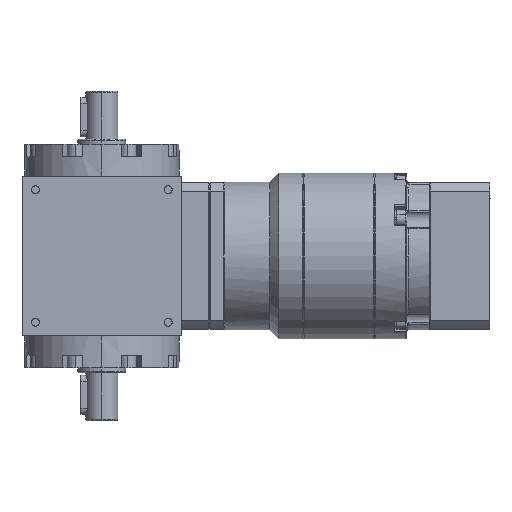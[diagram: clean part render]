
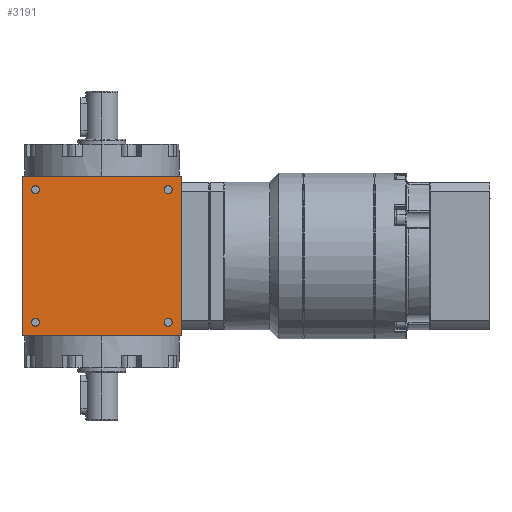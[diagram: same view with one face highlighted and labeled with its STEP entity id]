
A CAD part, left-side view. The second image highlights one B-rep face of the part: STEP entity #3191.
In plain terms, the highlighted planar face has unit normal (-1, 0, 0).
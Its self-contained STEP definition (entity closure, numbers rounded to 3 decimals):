
#73 = DIRECTION ( 'NONE',  ( 1., 0., 0. ) ) ;
#127 = DIRECTION ( 'NONE',  ( 1., 0., 0. ) ) ;
#2255 = CARTESIAN_POINT ( 'NONE',  ( -32.5, -27., 25.4 ) ) ;
#2415 = EDGE_LOOP ( 'NONE', ( #40213, #6204 ) ) ;
#2432 = CARTESIAN_POINT ( 'NONE',  ( -32.5, 27., -27. ) ) ;
#2673 = DIRECTION ( 'NONE',  ( 1., 0., 0. ) ) ;
#2793 = DIRECTION ( 'NONE',  ( 0., 0., 1. ) ) ;
#2804 = CARTESIAN_POINT ( 'NONE',  ( -32.5, 27., -27. ) ) ;
#2811 = AXIS2_PLACEMENT_3D ( 'NONE', #6493, #127, #24168 ) ;
#3022 = CARTESIAN_POINT ( 'NONE',  ( -32.5, 32.5, -32.5 ) ) ;
#3152 = EDGE_CURVE ( 'NONE', #39003, #20706, #45715, .T. ) ;
#3191 = ADVANCED_FACE ( 'NONE', ( #40160, #29085, #7852, #35920, #18710 ), #28612, .T. ) ;
#3537 = AXIS2_PLACEMENT_3D ( 'NONE', #21764, #29309, #46541 ) ;
#3797 = VERTEX_POINT ( 'NONE', #24885 ) ;
#3940 = EDGE_CURVE ( 'NONE', #31567, #6858, #36443, .T. ) ;
#4420 = CARTESIAN_POINT ( 'NONE',  ( -32.5, 27., -28.6 ) ) ;
#4783 = CARTESIAN_POINT ( 'NONE',  ( -32.5, -27., -25.4 ) ) ;
#5060 = CARTESIAN_POINT ( 'NONE',  ( -32.5, -27., -27. ) ) ;
#6090 = DIRECTION ( 'NONE',  ( 1., 0., 0. ) ) ;
#6204 = ORIENTED_EDGE ( 'NONE', *, *, #10530, .T. ) ;
#6493 = CARTESIAN_POINT ( 'NONE',  ( -32.5, 27., 27. ) ) ;
#6568 = DIRECTION ( 'NONE',  ( 0., 0., 1. ) ) ;
#6598 = CIRCLE ( 'NONE', #32955, 1.6 ) ;
#6858 = VERTEX_POINT ( 'NONE', #18800 ) ;
#6903 = VERTEX_POINT ( 'NONE', #4420 ) ;
#7852 = FACE_BOUND ( 'NONE', #2415, .T. ) ;
#9354 = VERTEX_POINT ( 'NONE', #2255 ) ;
#9374 = EDGE_CURVE ( 'NONE', #3797, #31213, #44241, .T. ) ;
#9863 = EDGE_CURVE ( 'NONE', #15430, #6903, #6598, .T. ) ;
#9976 = ORIENTED_EDGE ( 'NONE', *, *, #15627, .F. ) ;
#10066 = LINE ( 'NONE', #14283, #29545 ) ;
#10508 = AXIS2_PLACEMENT_3D ( 'NONE', #32344, #73, #14433 ) ;
#10530 = EDGE_CURVE ( 'NONE', #9354, #46020, #38958, .T. ) ;
#12246 = CARTESIAN_POINT ( 'NONE',  ( -32.5, -32.5, 32.5 ) ) ;
#13327 = ORIENTED_EDGE ( 'NONE', *, *, #26717, .T. ) ;
#13915 = CIRCLE ( 'NONE', #35021, 1.6 ) ;
#14078 = CARTESIAN_POINT ( 'NONE',  ( -32.5, 27., -25.4 ) ) ;
#14208 = CARTESIAN_POINT ( 'NONE',  ( -32.5, 32.5, -32.5 ) ) ;
#14283 = CARTESIAN_POINT ( 'NONE',  ( -32.5, -32.5, -32.5 ) ) ;
#14433 = DIRECTION ( 'NONE',  ( 0., 0., 1. ) ) ;
#14499 = CARTESIAN_POINT ( 'NONE',  ( -32.5, -27., -28.6 ) ) ;
#14537 = ORIENTED_EDGE ( 'NONE', *, *, #3940, .T. ) ;
#14916 = DIRECTION ( 'NONE',  ( 0., -1., 0. ) ) ;
#15246 = ORIENTED_EDGE ( 'NONE', *, *, #17943, .T. ) ;
#15332 = CARTESIAN_POINT ( 'NONE',  ( -32.5, -27., 28.6 ) ) ;
#15430 = VERTEX_POINT ( 'NONE', #14078 ) ;
#15472 = DIRECTION ( 'NONE',  ( 0., -1., 0. ) ) ;
#15627 = EDGE_CURVE ( 'NONE', #28631, #32632, #22547, .T. ) ;
#15739 = CIRCLE ( 'NONE', #10508, 1.6 ) ;
#16623 = CIRCLE ( 'NONE', #31697, 1.6 ) ;
#16937 = ORIENTED_EDGE ( 'NONE', *, *, #9863, .T. ) ;
#17047 = CIRCLE ( 'NONE', #32114, 1.6 ) ;
#17943 = EDGE_CURVE ( 'NONE', #6858, #32632, #10066, .T. ) ;
#18643 = CARTESIAN_POINT ( 'NONE',  ( -32.5, 27., 28.6 ) ) ;
#18710 = FACE_BOUND ( 'NONE', #34007, .T. ) ;
#18800 = CARTESIAN_POINT ( 'NONE',  ( -32.5, -32.5, -32.5 ) ) ;
#19026 = CARTESIAN_POINT ( 'NONE',  ( -32.5, 0., 32.5 ) ) ;
#19204 = DIRECTION ( 'NONE',  ( 0., 0., 1. ) ) ;
#19348 = AXIS2_PLACEMENT_3D ( 'NONE', #14208, #43469, #14916 ) ;
#20013 = DIRECTION ( 'NONE',  ( 0., 0., 1. ) ) ;
#20342 = EDGE_LOOP ( 'NONE', ( #40778, #14537, #15246, #9976 ) ) ;
#20706 = VERTEX_POINT ( 'NONE', #14499 ) ;
#21060 = DIRECTION ( 'NONE',  ( 0., 0., 1. ) ) ;
#21764 = CARTESIAN_POINT ( 'NONE',  ( -32.5, -27., -27. ) ) ;
#22547 = LINE ( 'NONE', #19026, #37771 ) ;
#23498 = ORIENTED_EDGE ( 'NONE', *, *, #30561, .T. ) ;
#23782 = CARTESIAN_POINT ( 'NONE',  ( -32.5, 32.5, -32.5 ) ) ;
#23921 = VECTOR ( 'NONE', #36695, 1000. ) ;
#24168 = DIRECTION ( 'NONE',  ( 0., 0., 1. ) ) ;
#24375 = EDGE_CURVE ( 'NONE', #46020, #9354, #16623, .T. ) ;
#24704 = CARTESIAN_POINT ( 'NONE',  ( -32.5, -27., 27. ) ) ;
#24885 = CARTESIAN_POINT ( 'NONE',  ( -32.5, 27., 25.4 ) ) ;
#25414 = DIRECTION ( 'NONE',  ( 1., 0., 0. ) ) ;
#26305 = CARTESIAN_POINT ( 'NONE',  ( -32.5, 0., -32.5 ) ) ;
#26717 = EDGE_CURVE ( 'NONE', #6903, #15430, #13915, .T. ) ;
#28612 = PLANE ( 'NONE',  #19348 ) ;
#28631 = VERTEX_POINT ( 'NONE', #34317 ) ;
#29085 = FACE_BOUND ( 'NONE', #37104, .T. ) ;
#29309 = DIRECTION ( 'NONE',  ( 1., 0., 0. ) ) ;
#29452 = ORIENTED_EDGE ( 'NONE', *, *, #42973, .T. ) ;
#29459 = EDGE_LOOP ( 'NONE', ( #42972, #29452 ) ) ;
#29545 = VECTOR ( 'NONE', #35991, 1000. ) ;
#30561 = EDGE_CURVE ( 'NONE', #31213, #3797, #15739, .T. ) ;
#31213 = VERTEX_POINT ( 'NONE', #18643 ) ;
#31352 = EDGE_CURVE ( 'NONE', #31567, #28631, #34620, .T. ) ;
#31567 = VERTEX_POINT ( 'NONE', #3022 ) ;
#31697 = AXIS2_PLACEMENT_3D ( 'NONE', #41340, #37804, #19204 ) ;
#32114 = AXIS2_PLACEMENT_3D ( 'NONE', #5060, #42056, #45128 ) ;
#32344 = CARTESIAN_POINT ( 'NONE',  ( -32.5, 27., 27. ) ) ;
#32632 = VERTEX_POINT ( 'NONE', #12246 ) ;
#32955 = AXIS2_PLACEMENT_3D ( 'NONE', #2432, #2673, #21060 ) ;
#34007 = EDGE_LOOP ( 'NONE', ( #16937, #13327 ) ) ;
#34317 = CARTESIAN_POINT ( 'NONE',  ( -32.5, 32.5, 32.5 ) ) ;
#34620 = LINE ( 'NONE', #23782, #36934 ) ;
#35021 = AXIS2_PLACEMENT_3D ( 'NONE', #2804, #25414, #6568 ) ;
#35920 = FACE_BOUND ( 'NONE', #29459, .T. ) ;
#35991 = DIRECTION ( 'NONE',  ( 0., 0., 1. ) ) ;
#36443 = LINE ( 'NONE', #26305, #23921 ) ;
#36695 = DIRECTION ( 'NONE',  ( 0., -1., 0. ) ) ;
#36934 = VECTOR ( 'NONE', #20013, 1000. ) ;
#37104 = EDGE_LOOP ( 'NONE', ( #23498, #37615 ) ) ;
#37615 = ORIENTED_EDGE ( 'NONE', *, *, #9374, .T. ) ;
#37771 = VECTOR ( 'NONE', #15472, 1000. ) ;
#37804 = DIRECTION ( 'NONE',  ( 1., 0., 0. ) ) ;
#38958 = CIRCLE ( 'NONE', #44954, 1.6 ) ;
#39003 = VERTEX_POINT ( 'NONE', #4783 ) ;
#40160 = FACE_OUTER_BOUND ( 'NONE', #20342, .T. ) ;
#40213 = ORIENTED_EDGE ( 'NONE', *, *, #24375, .T. ) ;
#40778 = ORIENTED_EDGE ( 'NONE', *, *, #31352, .F. ) ;
#41340 = CARTESIAN_POINT ( 'NONE',  ( -32.5, -27., 27. ) ) ;
#42056 = DIRECTION ( 'NONE',  ( 1., 0., 0. ) ) ;
#42972 = ORIENTED_EDGE ( 'NONE', *, *, #3152, .T. ) ;
#42973 = EDGE_CURVE ( 'NONE', #20706, #39003, #17047, .T. ) ;
#43469 = DIRECTION ( 'NONE',  ( -1., 0., 0. ) ) ;
#44241 = CIRCLE ( 'NONE', #2811, 1.6 ) ;
#44954 = AXIS2_PLACEMENT_3D ( 'NONE', #24704, #6090, #2793 ) ;
#45128 = DIRECTION ( 'NONE',  ( 0., 0., 1. ) ) ;
#45715 = CIRCLE ( 'NONE', #3537, 1.6 ) ;
#46020 = VERTEX_POINT ( 'NONE', #15332 ) ;
#46541 = DIRECTION ( 'NONE',  ( 0., 0., 1. ) ) ;
